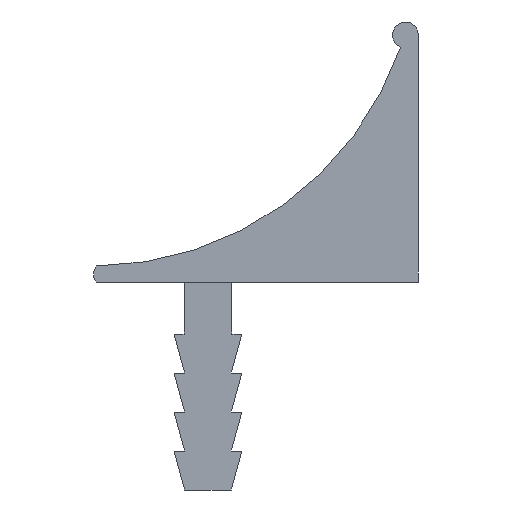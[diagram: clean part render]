
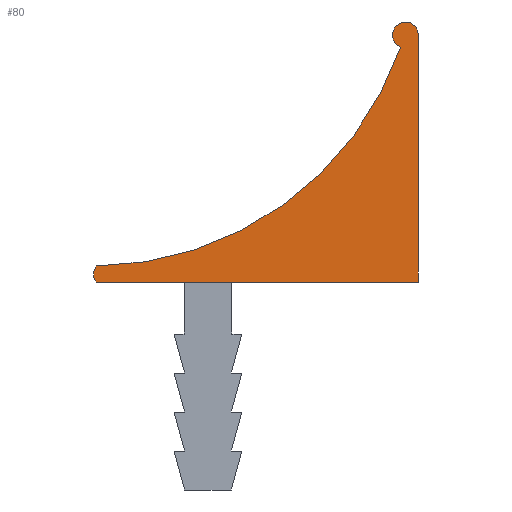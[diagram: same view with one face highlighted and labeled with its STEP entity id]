
A CAD part, left-side view. The second image highlights one B-rep face of the part: STEP entity #80.
In plain terms, the highlighted planar face has unit normal (-1, 0, 0).
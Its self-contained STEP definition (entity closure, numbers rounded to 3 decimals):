
#80 = ADVANCED_FACE( '', ( #167 ), #168, .F. );
#167 = FACE_OUTER_BOUND( '', #259, .T. );
#168 = PLANE( '', #260 );
#259 = EDGE_LOOP( '', ( #431, #432, #433, #434, #435 ) );
#260 = AXIS2_PLACEMENT_3D( '', #436, #437, #438 );
#431 = ORIENTED_EDGE( '', *, *, #604, .F. );
#432 = ORIENTED_EDGE( '', *, *, #636, .F. );
#433 = ORIENTED_EDGE( '', *, *, #628, .F. );
#434 = ORIENTED_EDGE( '', *, *, #637, .F. );
#435 = ORIENTED_EDGE( '', *, *, #565, .T. );
#436 = CARTESIAN_POINT( '', ( -30., 3.507, 21.117 ) );
#437 = DIRECTION( '', ( 1., 0., 0. ) );
#438 = DIRECTION( '', ( 0., 0., -1. ) );
#565 = EDGE_CURVE( '', #668, #669, #670, .T. );
#604 = EDGE_CURVE( '', #737, #669, #738, .T. );
#628 = EDGE_CURVE( '', #772, #773, #774, .T. );
#636 = EDGE_CURVE( '', #773, #737, #785, .T. );
#637 = EDGE_CURVE( '', #668, #772, #786, .T. );
#668 = VERTEX_POINT( '', #821 );
#669 = VERTEX_POINT( '', #822 );
#670 = CIRCLE( '', #823, 12.5 );
#737 = VERTEX_POINT( '', #919 );
#738 = CIRCLE( '', #920, 0.5 );
#772 = VERTEX_POINT( '', #972 );
#773 = VERTEX_POINT( '', #973 );
#774 = LINE( '', #974, #975 );
#785 = LINE( '', #991, #992 );
#786 = CIRCLE( '', #993, 0.502 );
#821 = CARTESIAN_POINT( '', ( -30., -8.308, 17.036 ) );
#822 = CARTESIAN_POINT( '', ( -30., 3.386, 8.617 ) );
#823 = AXIS2_PLACEMENT_3D( '', #1042, #1043, #1044 );
#919 = CARTESIAN_POINT( '', ( -30., 3.402, 8. ) );
#920 = AXIS2_PLACEMENT_3D( '', #1077, #1078, #1079 );
#972 = CARTESIAN_POINT( '', ( -30., -8.998, 17.501 ) );
#973 = CARTESIAN_POINT( '', ( -30., -8.998, 8. ) );
#974 = CARTESIAN_POINT( '', ( -30., -8.998, 17.501 ) );
#975 = VECTOR( '', #1101, 1000. );
#991 = CARTESIAN_POINT( '', ( -30., -8.998, 8. ) );
#992 = VECTOR( '', #1107, 1000. );
#993 = AXIS2_PLACEMENT_3D( '', #1108, #1109, #1110 );
#1042 = CARTESIAN_POINT( '', ( -30., 3.507, 21.117 ) );
#1043 = DIRECTION( '', ( 1., 0., 0. ) );
#1044 = DIRECTION( '', ( 0., 0., -1. ) );
#1077 = CARTESIAN_POINT( '', ( -30., 3.001, 8.299 ) );
#1078 = DIRECTION( '', ( 1., 0., 0. ) );
#1079 = DIRECTION( '', ( 0., 0., -1. ) );
#1101 = DIRECTION( '', ( 0., 0., -1. ) );
#1107 = DIRECTION( '', ( 0., 1., 0. ) );
#1108 = CARTESIAN_POINT( '', ( -30., -8.496, 17.501 ) );
#1109 = DIRECTION( '', ( 1., 0., 0. ) );
#1110 = DIRECTION( '', ( 0., 0., -1. ) );
